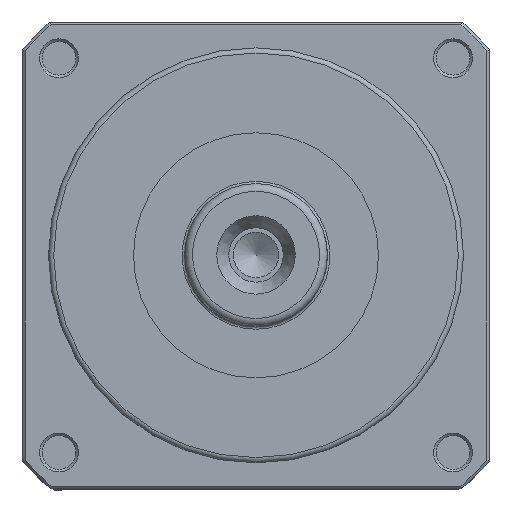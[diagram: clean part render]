
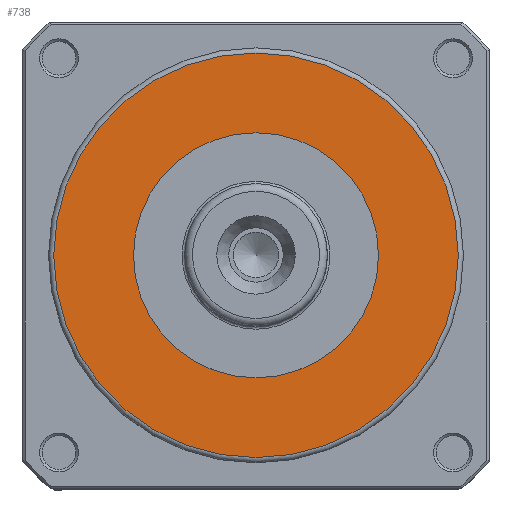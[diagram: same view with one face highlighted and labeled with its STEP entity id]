
A CAD part, top view. The second image highlights one B-rep face of the part: STEP entity #738.
In plain terms, the highlighted planar face has unit normal (0, 0, 1).
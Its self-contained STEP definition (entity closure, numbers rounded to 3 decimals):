
#279=PLANE('',#6747);
#738=ADVANCED_FACE('',(#2329,#2330),#279,.T.);
#1323=CIRCLE('',#6745,47.25);
#1324=CIRCLE('',#6746,78.);
#2329=FACE_BOUND('',#2751,.T.);
#2330=FACE_BOUND('',#2752,.T.);
#2751=EDGE_LOOP('',(#3601));
#2752=EDGE_LOOP('',(#3602));
#3601=ORIENTED_EDGE('',*,*,#5815,.F.);
#3602=ORIENTED_EDGE('',*,*,#5816,.T.);
#5159=VERTEX_POINT('',#9803);
#5160=VERTEX_POINT('',#9805);
#5815=EDGE_CURVE('',#5159,#5159,#1323,.T.);
#5816=EDGE_CURVE('',#5160,#5160,#1324,.T.);
#6745=AXIS2_PLACEMENT_3D('',#9802,#7807,#7808);
#6746=AXIS2_PLACEMENT_3D('',#9804,#7809,#7810);
#6747=AXIS2_PLACEMENT_3D('',#9806,#7811,#7812);
#7807=DIRECTION('',(0.,0.,1.));
#7808=DIRECTION('',(1.,0.,0.));
#7809=DIRECTION('',(0.,0.,1.));
#7810=DIRECTION('',(1.,0.,0.));
#7811=DIRECTION('',(0.,0.,1.));
#7812=DIRECTION('',(-1.,0.,0.));
#9802=CARTESIAN_POINT('',(0.,0.,252.8));
#9803=CARTESIAN_POINT('',(47.25,0.,252.8));
#9804=CARTESIAN_POINT('',(0.,0.,252.8));
#9805=CARTESIAN_POINT('',(78.,0.,252.8));
#9806=CARTESIAN_POINT('',(0.,0.,252.8));
